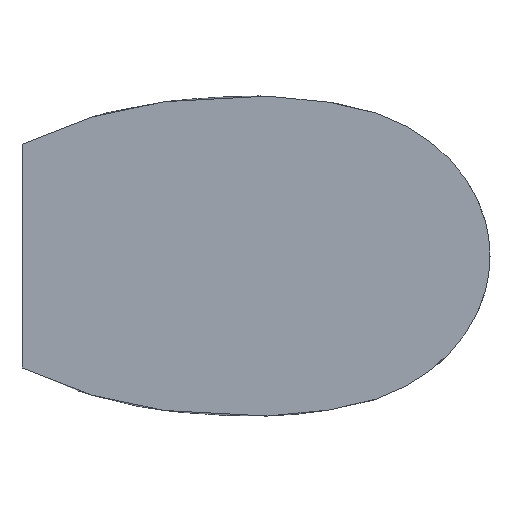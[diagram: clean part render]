
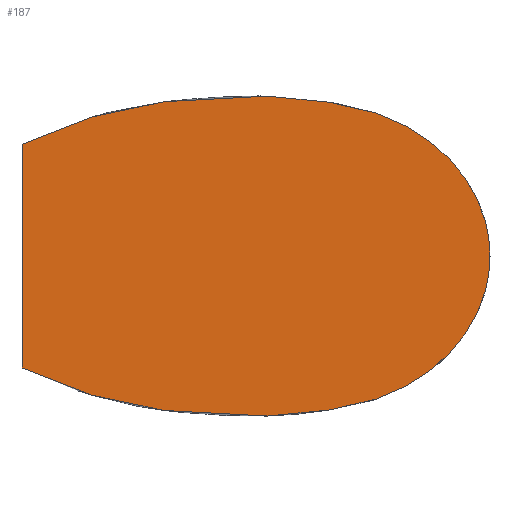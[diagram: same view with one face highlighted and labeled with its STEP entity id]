
A CAD part, left-side view. The second image highlights one B-rep face of the part: STEP entity #187.
In plain terms, the highlighted planar face has unit normal (-1, 0, 0).
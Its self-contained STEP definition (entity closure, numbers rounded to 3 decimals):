
#2=DIRECTION('',(0.,0.,-1.));
#3=VECTOR('',#2,1.7);
#4=CARTESIAN_POINT('',(-9.,-0.3,0.85));
#5=LINE('',#4,#3);
#10=CARTESIAN_POINT('',(-9.,-0.3,0.85));
#11=CARTESIAN_POINT('',(-9.,-0.439,0.918));
#12=CARTESIAN_POINT('',(-9.,-0.651,1.004));
#13=CARTESIAN_POINT('',(-9.,-0.941,1.09));
#14=CARTESIAN_POINT('',(-9.,-1.163,1.14));
#15=CARTESIAN_POINT('',(-9.,-1.351,1.17));
#16=CARTESIAN_POINT('',(-9.,-1.504,1.187));
#17=CARTESIAN_POINT('',(-9.,-1.601,1.195));
#18=CARTESIAN_POINT('',(-9.,-1.67,1.198));
#19=CARTESIAN_POINT('',(-9.,-1.709,1.2));
#20=CARTESIAN_POINT('',(-9.,-1.748,1.204));
#21=CARTESIAN_POINT('',(-9.,-1.798,1.208));
#22=CARTESIAN_POINT('',(-9.,-1.917,1.215));
#23=CARTESIAN_POINT('',(-9.,-2.109,1.219));
#24=CARTESIAN_POINT('',(-9.,-2.382,1.206));
#25=CARTESIAN_POINT('',(-9.,-2.671,1.166));
#26=CARTESIAN_POINT('',(-9.,-2.963,1.106));
#27=CARTESIAN_POINT('',(-9.,-3.242,0.986));
#28=CARTESIAN_POINT('',(-9.,-3.492,0.809));
#29=CARTESIAN_POINT('',(-9.,-3.693,0.577));
#30=CARTESIAN_POINT('',(-9.,-3.825,0.3));
#31=CARTESIAN_POINT('',(-9.,-3.855,0.099));
#32=CARTESIAN_POINT('',(-9.,-3.855,0.));
#34=CARTESIAN_POINT('',(-9.,-0.3,-0.85));
#35=CARTESIAN_POINT('',(-9.,-0.439,-0.918));
#36=CARTESIAN_POINT('',(-9.,-0.651,-1.004));
#37=CARTESIAN_POINT('',(-9.,-0.941,-1.09));
#38=CARTESIAN_POINT('',(-9.,-1.163,-1.14));
#39=CARTESIAN_POINT('',(-9.,-1.351,-1.17));
#40=CARTESIAN_POINT('',(-9.,-1.504,-1.187));
#41=CARTESIAN_POINT('',(-9.,-1.601,-1.195));
#42=CARTESIAN_POINT('',(-9.,-1.67,-1.198));
#43=CARTESIAN_POINT('',(-9.,-1.709,-1.2));
#44=CARTESIAN_POINT('',(-9.,-1.748,-1.204));
#45=CARTESIAN_POINT('',(-9.,-1.798,-1.208));
#46=CARTESIAN_POINT('',(-9.,-1.917,-1.215));
#47=CARTESIAN_POINT('',(-9.,-2.109,-1.219));
#48=CARTESIAN_POINT('',(-9.,-2.382,-1.206));
#49=CARTESIAN_POINT('',(-9.,-2.671,-1.166));
#50=CARTESIAN_POINT('',(-9.,-2.963,-1.106));
#51=CARTESIAN_POINT('',(-9.,-3.242,-0.986));
#52=CARTESIAN_POINT('',(-9.,-3.492,-0.809));
#53=CARTESIAN_POINT('',(-9.,-3.693,-0.577));
#54=CARTESIAN_POINT('',(-9.,-3.825,-0.3));
#55=CARTESIAN_POINT('',(-9.,-3.855,-0.099));
#56=CARTESIAN_POINT('',(-9.,-3.855,0.));
#152=CARTESIAN_POINT('',(-9.,-0.3,0.85));
#153=CARTESIAN_POINT('',(-9.,-0.3,-0.85));
#154=VERTEX_POINT('',#152);
#155=VERTEX_POINT('',#153);
#156=VERTEX_POINT('',#32);
#175=CARTESIAN_POINT('',(-9.,0.,0.));
#176=DIRECTION('',(1.,0.,0.));
#177=DIRECTION('',(0.,0.,-1.));
#178=AXIS2_PLACEMENT_3D('',#175,#176,#177);
#179=PLANE('',#178);
#180=ORIENTED_EDGE('',*,*,#162,.F.);
#182=ORIENTED_EDGE('',*,*,#181,.T.);
#184=ORIENTED_EDGE('',*,*,#183,.F.);
#185=EDGE_LOOP('',(#180,#182,#184));
#186=FACE_OUTER_BOUND('',#185,.F.);
#187=ADVANCED_FACE('',(#186),#179,.F.);
#33=B_SPLINE_CURVE_WITH_KNOTS('',3,(#10,#11,#12,#13,#14,#15,#16,#17,#18,#19,#20,
#21,#22,#23,#24,#25,#26,#27,#28,#29,#30,#31,#32),.UNSPECIFIED.,.F.,.F.,(4,1,1,1,
1,1,1,1,1,1,1,1,1,1,1,1,1,1,1,1,4),(0.,0.117,0.176,
0.235,0.293,0.323,0.352,
0.366,0.374,0.381,0.396,
0.41,0.469,0.535,0.602,
0.668,0.735,0.801,0.867,
0.934,1.),.UNSPECIFIED.);
#57=B_SPLINE_CURVE_WITH_KNOTS('',3,(#34,#35,#36,#37,#38,#39,#40,#41,#42,#43,#44,
#45,#46,#47,#48,#49,#50,#51,#52,#53,#54,#55,#56),.UNSPECIFIED.,.F.,.F.,(4,1,1,1,
1,1,1,1,1,1,1,1,1,1,1,1,1,1,1,1,4),(0.,0.117,0.176,
0.235,0.293,0.323,0.352,
0.366,0.374,0.381,0.396,
0.41,0.469,0.535,0.602,
0.668,0.735,0.801,0.867,
0.934,1.),.UNSPECIFIED.);
#162=EDGE_CURVE('',#154,#155,#5,.T.);
#181=EDGE_CURVE('',#154,#156,#33,.T.);
#183=EDGE_CURVE('',#155,#156,#57,.T.);
